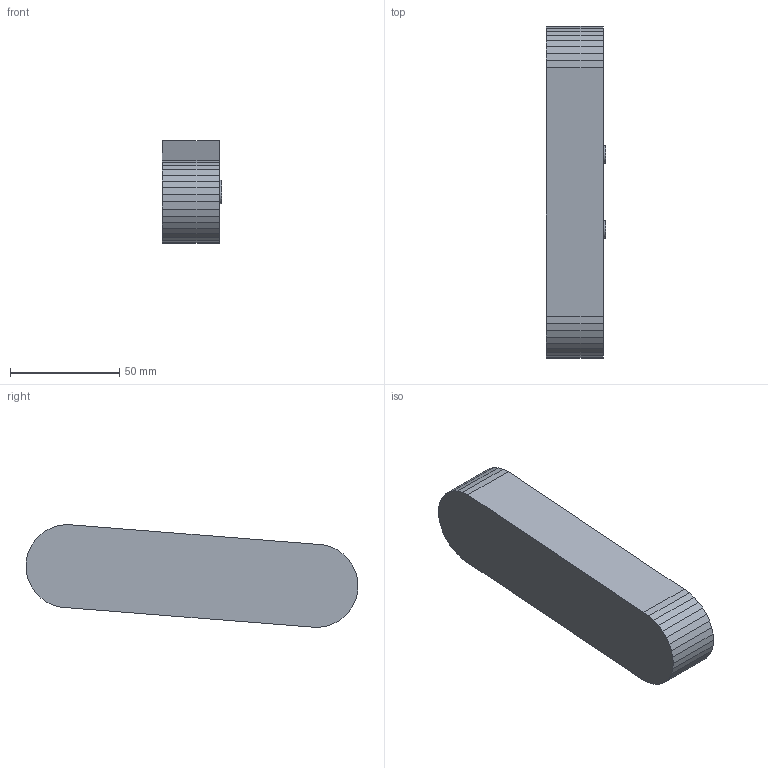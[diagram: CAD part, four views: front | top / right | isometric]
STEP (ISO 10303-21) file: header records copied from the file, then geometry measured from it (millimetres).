
FILE_DESCRIPTION(('Open CASCADE Model'),'2;1');
FILE_NAME('Open CASCADE Shape Model','2026-10-06T19:56:11',('Author'),( 'Open CASCADE'),'Open CASCADE STEP processor 7.9','Open CASCADE 7.9' ,'Unknown');
FILE_SCHEMA(('AUTOMOTIVE_DESIGN { 1 0 10303 214 1 1 1 1 }'));
Length unit declared in the file: millimetre
Products named in the file (1): Open CASCADE STEP translator 7.9 46
Bounding box: 27 x 151.64 x 47 mm (x, y, z)
Volume: 29263.5 mm3; surface area: 29744.6 mm2
Topology: 1 solids, 1 shells, 87 faces, 240 edges, 160 vertices
Faces by surface type: plane 83, cylinder 4
Full cylindrical faces by diameter (mm): 3.4 x2, 8 x2
Entity records: 5864 total; most frequent: CARTESIAN_POINT 992, DIRECTION 900, LINE 704, VECTOR 704, ORIENTED_EDGE 480, PCURVE 480, DEFINITIONAL_REPRESENTATION 480, EDGE_CURVE 240
